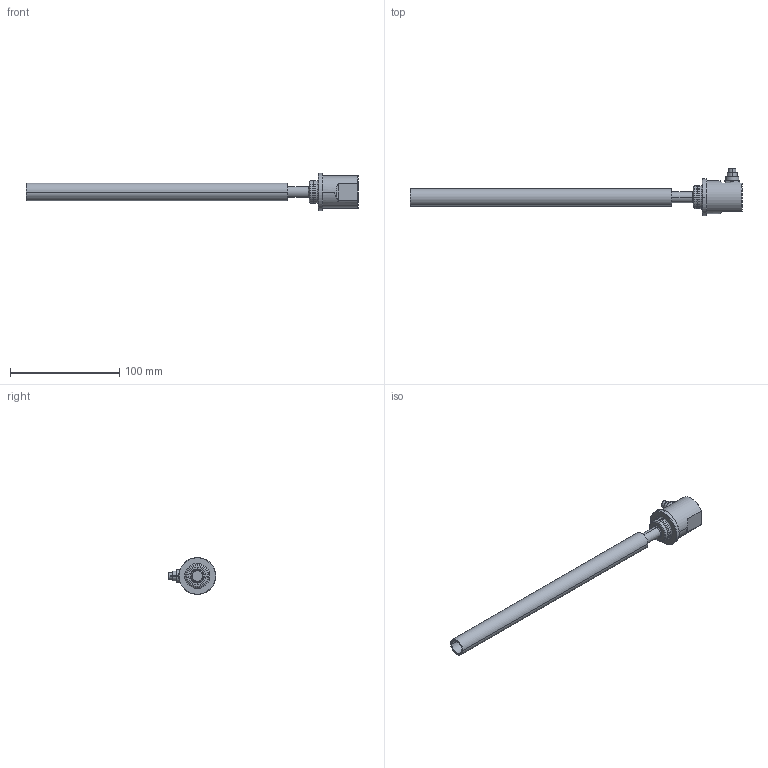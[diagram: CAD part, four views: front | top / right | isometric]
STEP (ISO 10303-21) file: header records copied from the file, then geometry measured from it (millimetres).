
FILE_DESCRIPTION((''),'2;1');
FILE_NAME('EDS-200-S-SR7_MIT_ROHR_ASM','2007-11-28T',('11000065'),(''),'PRO/ENGINEER BY PARAMETRIC TECHNOLOGY CORPORATION, 2007160','PRO/ENGINEER BY PARAMETRIC TECHNOLOGY CORPORATION, 2007160','');
FILE_SCHEMA(('AUTOMOTIVE_DESIGN { 1 2 10303 214 0 1 1 1 }'));
Length unit declared in the file: millimetre
Products named in the file (4): EDS-200-S-SR7; MESSROHR; O-RING-18X1_5; EDS-200-S-SR7_MIT_ROHR_ASM
Assembly tree (3 placements, depth 2):
  EDS-200-S-SR7_MIT_ROHR_ASM
    EDS-200-S-SR7
    MESSROHR
    O-RING-18X1_5
Bounding box: 304.5 x 43.69 x 34 mm (x, y, z)
Volume: 64635 mm3; surface area: 36663.4 mm2
Topology: 3 solids, 11 shells, 199 faces, 473 edges, 302 vertices
Faces by surface type: cylinder 93, plane 55, cone 20, sphere 14, torus 13, bspline 4
Entity records: 6558 total; most frequent: CARTESIAN_POINT 1362, DIRECTION 1088, ORIENTED_EDGE 918, AXIS2_PLACEMENT_3D 467, EDGE_CURVE 459, VERTEX_POINT 302, CIRCLE 265, EDGE_LOOP 237
